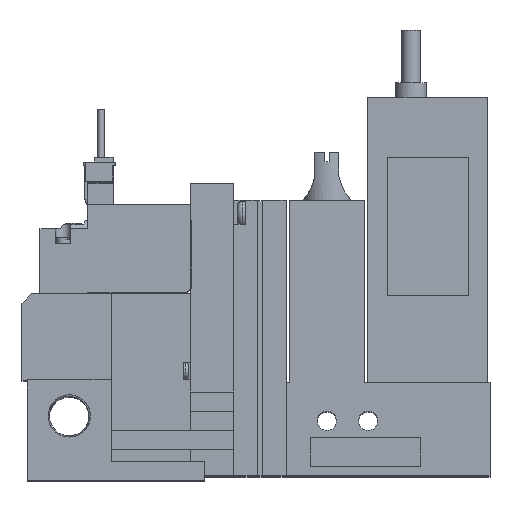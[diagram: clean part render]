
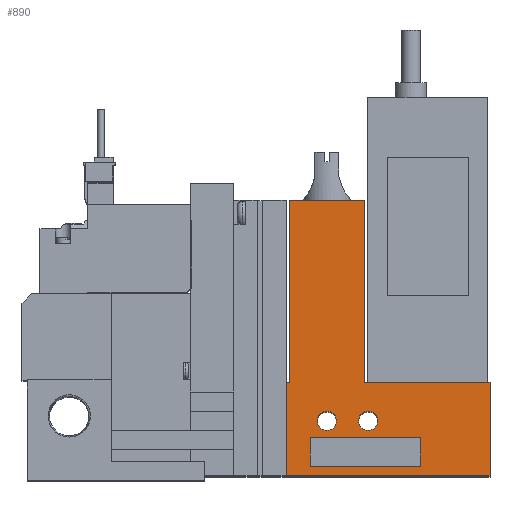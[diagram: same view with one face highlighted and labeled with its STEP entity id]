
A CAD part, top view. The second image highlights one B-rep face of the part: STEP entity #890.
In plain terms, the highlighted planar face has unit normal (0, 0, 1).
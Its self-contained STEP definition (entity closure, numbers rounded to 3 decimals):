
#890=ADVANCED_FACE('',(#1815,#1816,#1817,#1818),#1819,.T.);
#1815=FACE_BOUND('',#3034,.T.);
#1816=FACE_BOUND('',#3035,.T.);
#1817=FACE_BOUND('',#3036,.T.);
#1818=FACE_OUTER_BOUND('',#3037,.T.);
#1819=PLANE('',#3038);
#3034=EDGE_LOOP('',(#6299,#6300,#6301,#6302));
#3035=EDGE_LOOP('',(#6303));
#3036=EDGE_LOOP('',(#6304));
#3037=EDGE_LOOP('',(#6305,#6306,#6307,#6308,#6309,#6310,#6311,#6312));
#3038=AXIS2_PLACEMENT_3D('',#6313,#6314,#6315);
#6299=ORIENTED_EDGE('',*,*,#8254,.T.);
#6300=ORIENTED_EDGE('',*,*,#8287,.T.);
#6301=ORIENTED_EDGE('',*,*,#8434,.T.);
#6302=ORIENTED_EDGE('',*,*,#8389,.T.);
#6303=ORIENTED_EDGE('',*,*,#8435,.T.);
#6304=ORIENTED_EDGE('',*,*,#8255,.T.);
#6305=ORIENTED_EDGE('',*,*,#8322,.F.);
#6306=ORIENTED_EDGE('',*,*,#8180,.T.);
#6307=ORIENTED_EDGE('',*,*,#8394,.T.);
#6308=ORIENTED_EDGE('',*,*,#8392,.T.);
#6309=ORIENTED_EDGE('',*,*,#8409,.T.);
#6310=ORIENTED_EDGE('',*,*,#8436,.T.);
#6311=ORIENTED_EDGE('',*,*,#8345,.T.);
#6312=ORIENTED_EDGE('',*,*,#8290,.T.);
#6313=CARTESIAN_POINT('',(0.0,0.0,10.0));
#6314=DIRECTION('',(0.0,0.0,1.0));
#6315=DIRECTION('',(1.0,0.0,0.0));
#8180=EDGE_CURVE('',#9881,#9879,#9882,.T.);
#8254=EDGE_CURVE('',#10015,#10017,#10019,.T.);
#8255=EDGE_CURVE('',#10020,#10020,#10021,.T.);
#8287=EDGE_CURVE('',#10017,#10076,#10078,.T.);
#8290=EDGE_CURVE('',#10082,#10080,#10083,.T.);
#8322=EDGE_CURVE('',#9881,#10080,#10137,.T.);
#8345=EDGE_CURVE('',#10173,#10082,#10174,.T.);
#8389=EDGE_CURVE('',#10236,#10015,#10238,.T.);
#8392=EDGE_CURVE('',#10242,#10240,#10243,.T.);
#8394=EDGE_CURVE('',#9879,#10242,#10245,.T.);
#8409=EDGE_CURVE('',#10240,#10266,#10268,.T.);
#8434=EDGE_CURVE('',#10076,#10236,#10303,.T.);
#8435=EDGE_CURVE('',#10304,#10304,#10305,.T.);
#8436=EDGE_CURVE('',#10266,#10173,#10306,.T.);
#9879=VERTEX_POINT('',#12603);
#9881=VERTEX_POINT('',#12606);
#9882=LINE('',#12607,#12608);
#10015=VERTEX_POINT('',#12834);
#10017=VERTEX_POINT('',#12837);
#10019=LINE('',#12840,#12841);
#10020=VERTEX_POINT('',#12842);
#10021=CIRCLE('',#12843,2.0);
#10076=VERTEX_POINT('',#12921);
#10078=LINE('',#12924,#12925);
#10080=VERTEX_POINT('',#12928);
#10082=VERTEX_POINT('',#12931);
#10083=LINE('',#12932,#12933);
#10137=LINE('',#13014,#13015);
#10173=VERTEX_POINT('',#13097);
#10174=LINE('',#13098,#13099);
#10236=VERTEX_POINT('',#13217);
#10238=LINE('',#13220,#13221);
#10240=VERTEX_POINT('',#13223);
#10242=VERTEX_POINT('',#13226);
#10243=LINE('',#13227,#13228);
#10245=LINE('',#13231,#13232);
#10266=VERTEX_POINT('',#13266);
#10268=LINE('',#13269,#13270);
#10303=LINE('',#13326,#13327);
#10304=VERTEX_POINT('',#13328);
#10305=CIRCLE('',#13329,2.0);
#10306=LINE('',#13330,#13331);
#12603=CARTESIAN_POINT('',(97.6,0.0,10.0));
#12606=CARTESIAN_POINT('',(55.1,0.0,10.0));
#12607=CARTESIAN_POINT('',(18.6,0.0,10.0));
#12608=VECTOR('',#15119,1.0);
#12834=CARTESIAN_POINT('',(60.1,2.0,10.0));
#12837=CARTESIAN_POINT('',(60.1,8.0,10.0));
#12840=CARTESIAN_POINT('',(60.1,0.0,10.0));
#12841=VECTOR('',#15200,1.0);
#12842=CARTESIAN_POINT('',(74.2,11.5,10.0));
#12843=AXIS2_PLACEMENT_3D('',#15201,#15202,#15203);
#12921=CARTESIAN_POINT('',(83.1,8.0,10.0));
#12924=CARTESIAN_POINT('',(0.0,8.0,10.0));
#12925=VECTOR('',#15249,1.0);
#12928=CARTESIAN_POINT('',(55.1,19.5,10.0));
#12931=CARTESIAN_POINT('',(55.75,19.5,10.0));
#12932=CARTESIAN_POINT('',(55.75,19.5,10.0));
#12933=VECTOR('',#15252,1.0);
#13014=CARTESIAN_POINT('',(55.1,0.0,10.0));
#13015=VECTOR('',#15292,1.0);
#13097=CARTESIAN_POINT('',(55.75,57.5,10.0));
#13098=CARTESIAN_POINT('',(55.75,57.5,10.0));
#13099=VECTOR('',#15318,1.0);
#13217=CARTESIAN_POINT('',(83.1,2.0,10.0));
#13220=CARTESIAN_POINT('',(0.0,2.0,10.0));
#13221=VECTOR('',#15377,1.0);
#13223=CARTESIAN_POINT('',(71.45,19.5,10.0));
#13226=CARTESIAN_POINT('',(97.6,19.5,10.0));
#13227=CARTESIAN_POINT('',(97.6,19.5,10.0));
#13228=VECTOR('',#15382,1.0);
#13231=CARTESIAN_POINT('',(97.6,0.0,10.0));
#13232=VECTOR('',#15384,1.0);
#13266=CARTESIAN_POINT('',(71.45,57.5,10.0));
#13269=CARTESIAN_POINT('',(71.45,19.5,10.0));
#13270=VECTOR('',#15399,1.0);
#13326=CARTESIAN_POINT('',(83.1,0.0,10.0));
#13327=VECTOR('',#15427,1.0);
#13328=CARTESIAN_POINT('',(65.6,11.5,10.0));
#13329=AXIS2_PLACEMENT_3D('',#15428,#15429,#15430);
#13330=CARTESIAN_POINT('',(71.45,57.5,10.0));
#13331=VECTOR('',#15431,1.0);
#15119=DIRECTION('',(1.0,0.0,0.0));
#15200=DIRECTION('',(0.0,1.0,0.0));
#15201=CARTESIAN_POINT('',(72.2,11.5,10.0));
#15202=DIRECTION('',(0.0,0.0,-1.0));
#15203=DIRECTION('',(1.0,0.0,0.0));
#15249=DIRECTION('',(1.0,0.0,0.0));
#15252=DIRECTION('',(-1.0,0.0,0.0));
#15292=DIRECTION('',(0.0,1.0,0.0));
#15318=DIRECTION('',(0.0,-1.0,0.0));
#15377=DIRECTION('',(-1.0,0.0,0.0));
#15382=DIRECTION('',(-1.0,0.0,0.0));
#15384=DIRECTION('',(0.0,1.0,0.0));
#15399=DIRECTION('',(0.0,1.0,0.0));
#15427=DIRECTION('',(0.0,-1.0,0.0));
#15428=CARTESIAN_POINT('',(63.6,11.5,10.0));
#15429=DIRECTION('',(0.0,0.0,-1.0));
#15430=DIRECTION('',(1.0,0.0,0.0));
#15431=DIRECTION('',(-1.0,0.0,0.0));
